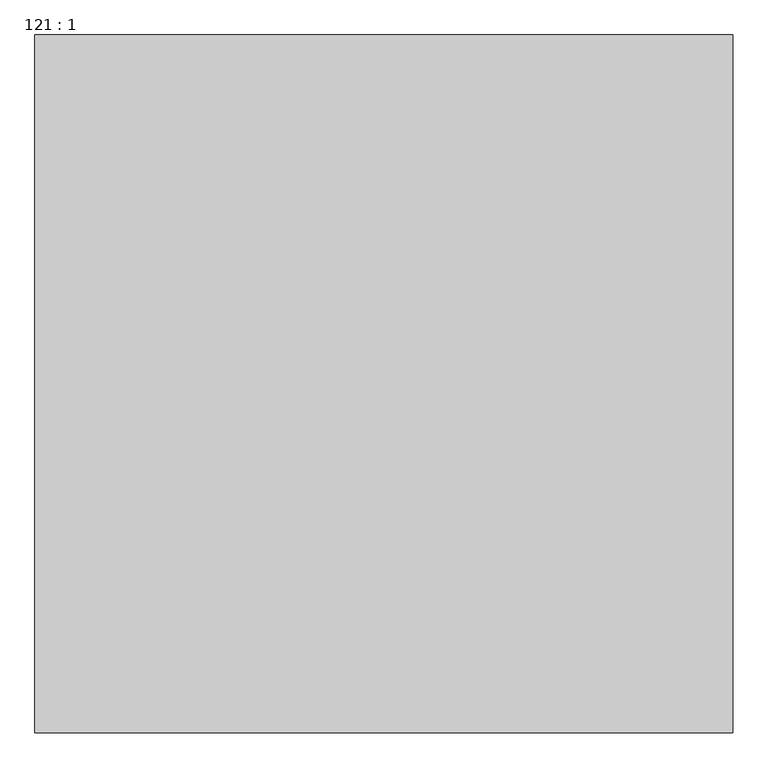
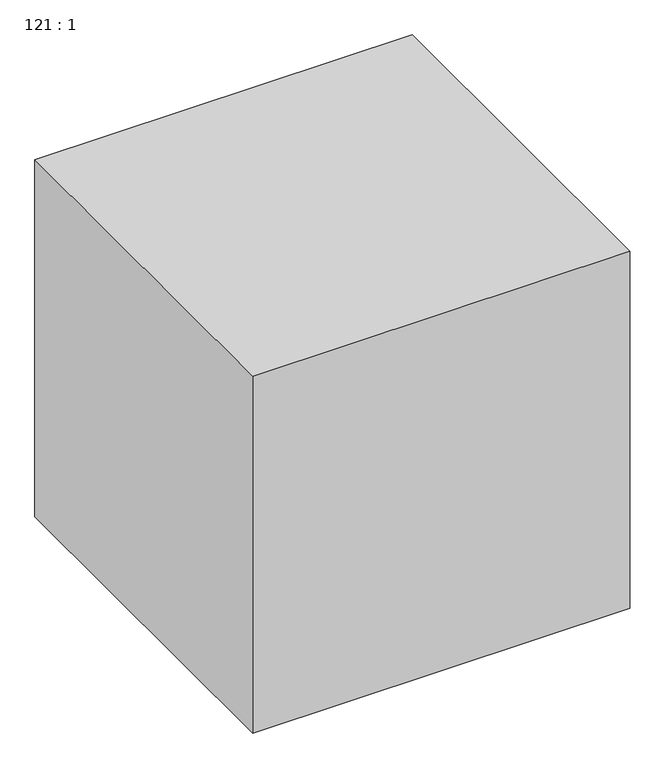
"""IFC4 building model written with IfcOpenShell, lengths in millimetres: proxy geometry, 121 : 1."""

from ifc_helpers import new_model, si_unit, origin, origin_with_axes, place, context, project, spatial, polyline, outline, extrude, source, transform, mapped, element, save


def proxy_121_1_6d52ab04(model_context):
    return source(origin(), model_context, "Body", "SweptSolid", [
        extrude(outline(polyline([(27692.0243292, 15335.2294472), (27692.0243292, 14335.2294472), (26692.0243292, 14335.2294472), (26692.0243292, 15335.2294472), (27692.0243292, 15335.2294472)])), origin_with_axes(), (0.0, 0.0, 1.0), 1000.0),
    ])


if __name__ == "__main__":
    model = new_model("IFC4")
    model_context = context("Model", 3, world=origin())
    ifc_project = project(units=[si_unit("LENGTHUNIT", "METRE", prefix="MILLI")], contexts=[model_context])
    site = spatial("IfcSite", under=ifc_project)
    building = spatial("IfcBuilding", under=site)
    placement = place(None, origin())
    proxy_121_1_shape = proxy_121_1_6d52ab04(model_context)
    element("IfcBuildingElementProxy", 1, Name="121 : 1", ObjectType="121 : 1", at=placement, inside=building, context=model_context, shape_type="MappedRepresentation", body=[
        mapped(proxy_121_1_shape, transform((0.0, 0.0, 0.0), x_axis=(1.0, 0.0, 0.0), y_axis=(0.0, 1.0, 0.0), z_axis=(0.0, 0.0, 1.0))),
    ])
    save(model, "model.ifc")
